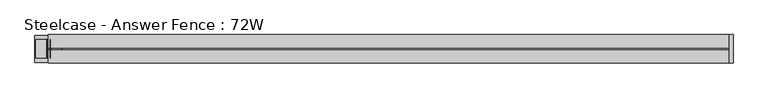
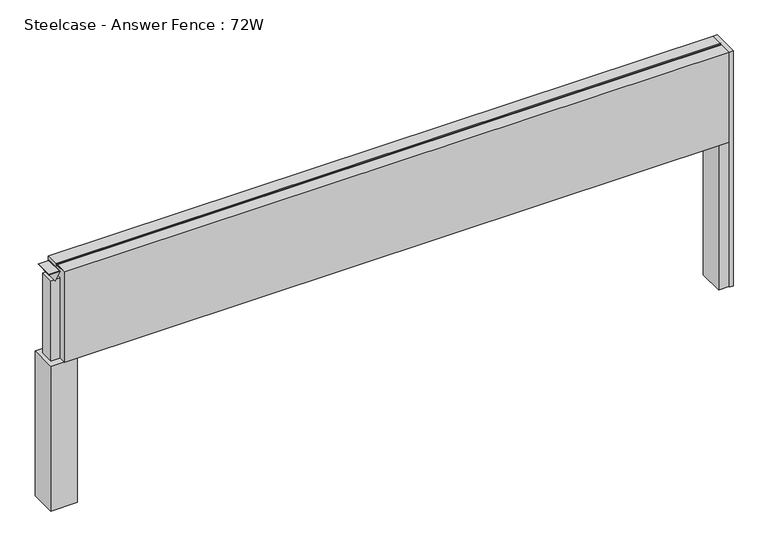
"""IFC4 building model written with IfcOpenShell, lengths in millimetres: furniture geometry, Steelcase - Answer Fence : 72W."""

from ifc_helpers import new_model, si_unit, point, frame, frame_2d, origin, place, context, project, spatial, polyline, circle_curve, trimmed, segment, composite_curve, outline, extrude, source, transform, mapped, element, save
from ifc_brep_helpers import plane_surface, cylinder_surface, revolved_surface, advanced_brep


def steelcase_answer_fence_72w_f308af9f(model_context):
    return source(origin(), model_context, "Body", "SolidModel", [
        extrude(outline(polyline([(1760.503178, 28.9756526), (1788.6512543, 28.9756526), (1788.6512543, 17.9388808), (1771.4288215, 17.9388808), (1771.4288215, -32.8611192), (1788.6381573, -32.8611192), (1788.6381573, -43.7191471), (1760.503178, -43.7191471), (1760.503178, 28.9756526)])), frame((0.0, 0.0, 15.4939671), z_axis=(0.0, 0.0, 1.0), x_axis=(1.0, 0.0, 0.0)), (0.0, 0.0, 1.0), 420.9763759),
        extrude(outline(polyline([(1798.8344464, 30.7299), (1798.8344464, -45.5635028), (1788.668, -45.5635028), (1788.668, 30.7299), (1798.8344464, 30.7299)])), frame((0.0, 0.0, 15.4939671), z_axis=(0.0, 0.0, 1.0), x_axis=(1.0, 0.0, 0.0)), (0.0, 0.0, 1.0), 683.006),
        advanced_brep(
        [(-47.4460299, -7.4168014, -3.29e-05), (-21.9950726, -7.4168014, -3.29e-05), (-34.7205512, -7.4168014, -3.29e-05), (-47.4460299, -7.4168014, 2.446593), (-21.9950726, -7.4168014, 2.446593), (-39.6754775, -7.4168014, 4.8561413), (-29.765625, -7.4168014, 4.8561413), (-38.5932872, -7.4168014, 4.8561413), (-30.8478153, -7.4168014, 4.8561413), (-38.5932872, -7.4168014, 15.4939671), (-30.8478153, -7.4168014, 15.4939671), (-34.7205512, -7.4168014, 15.4939671)],
        [
            (0, 1, circle_curve(frame((-34.7205512, -7.4168014, -3.29e-05), z_axis=(0.0, 0.0, -1.0), x_axis=(1.0000000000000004, 0.0, 0.0)), 12.7254787)),
            (1, 2),
            (2, 0),
            (1, 0, circle_curve(frame((-34.7205512, -7.4168014, -3.29e-05), z_axis=(0.0, 0.0, -1.0), x_axis=(1.0000000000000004, 0.0, 0.0)), 12.7254787)),
            (3, 4, circle_curve(frame((-34.7205512, -7.4168014, 2.446593), z_axis=(0.0, 0.0, -1.0), x_axis=(1.0000000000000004, 0.0, 0.0)), 12.7254787)),
            (4, 1),
            (0, 3),
            (4, 3, circle_curve(frame((-34.7205512, -7.4168014, 2.446593), z_axis=(0.0, 0.0, -1.0), x_axis=(1.0000000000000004, 0.0, 0.0)), 12.7254787)),
            (5, 6, circle_curve(frame((-34.7205512, -7.4168014, 4.8561413), z_axis=(0.0, 0.0, -1.0), x_axis=(1.0000000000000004, 0.0, 0.0)), 4.9549262)),
            (6, 4),
            (3, 5),
            (6, 5, circle_curve(frame((-34.7205512, -7.4168014, 4.8561413), z_axis=(0.0, 0.0, -1.0), x_axis=(1.0000000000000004, 0.0, 0.0)), 4.9549262)),
            (7, 8, circle_curve(frame((-34.7205512, -7.4168014, 4.8561413), z_axis=(0.0, 0.0, -1.0), x_axis=(1.0000000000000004, 0.0, 0.0)), 3.8727359)),
            (8, 6),
            (5, 7),
            (8, 7, circle_curve(frame((-34.7205512, -7.4168014, 4.8561413), z_axis=(0.0, 0.0, -1.0), x_axis=(1.0000000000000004, 0.0, 0.0)), 3.8727359)),
            (9, 10, circle_curve(frame((-34.7205512, -7.4168014, 15.4939671), z_axis=(0.0, 0.0, -1.0), x_axis=(1.0000000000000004, 0.0, 0.0)), 3.8727359)),
            (10, 8),
            (7, 9),
            (10, 9, circle_curve(frame((-34.7205512, -7.4168014, 15.4939671), z_axis=(0.0, 0.0, -1.0), x_axis=(1.0000000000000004, 0.0, 0.0)), 3.8727359)),
            (11, 10),
            (9, 11),
        ],
        [
            plane_surface(frame((-34.7205512, -7.4168014, -3.29e-05), z_axis=(0.0, 0.0, -1.0), x_axis=(1.0, 0.0, 0.0))),
            cylinder_surface(frame((-34.7205512, -7.4168014, -1.135133), z_axis=(0.0, 0.0, 1.0), x_axis=(1.0000000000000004, 0.0, 0.0)), 12.7254787),
            revolved_surface(polyline([(-21.9950726, -7.4168014, 2.446593), (-29.765625, -7.4168014, 4.8561413)]), (-34.7205512, -7.4168014, -1.135133), (0.0, 0.0, 1.0)),
            plane_surface(frame((-34.7205512, -7.4168014, 4.8561413), z_axis=(0.0, 0.0, 1.0), x_axis=(1.0, 0.0, 0.0))),
            cylinder_surface(frame((-34.7205512, -7.4168014, -1.135133), z_axis=(0.0, 0.0, 1.0), x_axis=(1.0000000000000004, 0.0, 0.0)), 3.8727359),
            plane_surface(frame((-34.7205512, -7.4168014, 15.4939671), z_axis=(0.0, 0.0, 1.0), x_axis=(1.0, 0.0, 0.0))),
        ],
        [
            (0, [[1, 2, 3]]),
            (0, [[4, -3, -2]]),
            (1, [[5, 6, -1, 7]]),
            (1, [[8, -7, -4, -6]]),
            (2, [[9, 10, -5, 11]]),
            (2, [[12, -11, -8, -10]]),
            (3, [[13, 14, -9, 15]]),
            (3, [[16, -15, -12, -14]]),
            (4, [[17, 18, -13, 19]]),
            (4, [[20, -19, -16, -18]]),
            (5, [[21, -17, 22]]),
            (5, [[-22, -20, -21]]),
        ],
    ),
        extrude(outline(polyline([(-74.4473999, -43.8092555), (-74.4473999, 28.8855443), (-1.7526001, 28.8855443), (-1.7526001, -43.8092555), (-74.4473999, -43.8092555)])), frame((0.0, 0.0, 15.4939671), z_axis=(0.0, 0.0, 1.0), x_axis=(1.0, 0.0, 0.0)), (0.0, 0.0, 1.0), 420.9763759),
        extrude(outline(composite_curve([segment(polyline([(694.8271015, -3.0262703), (695.7272589, -3.0262703), (695.7272589, -31.9906063)]), True, "CONTINUOUS"), segment(trimmed(circle_curve(frame_2d((693.8919079, -31.9906063)), 1.8353511), [point((695.7272589, -31.9906063))], [point((693.0018984, -33.5957221))], False, "CARTESIAN"), True, "CONTINUOUS"), segment(polyline([(693.0018984, -33.5957221), (670.3405135, -21.0303685), (670.7684479, -20.2585967), (693.3575585, -32.7799452)]), True, "CONTINUOUS"), segment(trimmed(circle_curve(frame_2d((693.8373834, -31.9143183)), 0.9897181), [point((693.3575585, -32.7799452))], [point((694.8271015, -31.9143183))], True, "CARTESIAN"), True, "CONTINUOUS"), segment(polyline([(694.8271015, -31.9143183), (694.8271015, -3.0262703)]), True, "CONTINUOUS")], self_intersect=False)), frame((0.0, -32.5439723, 0.0), z_axis=(0.0, 1.0, 0.0), x_axis=(0.0, 0.0, 1.0)), (0.0, 0.0, 1.0), 50.8000666),
        extrude(outline(composite_curve([segment(polyline([(694.8271015, -72.7768547), (694.8271015, -43.8888067)]), True, "CONTINUOUS"), segment(trimmed(circle_curve(frame_2d((693.8373834, -43.8888067)), 0.9897181), [point((694.8271015, -43.8888067))], [point((693.3575585, -43.0231798))], True, "CARTESIAN"), True, "CONTINUOUS"), segment(polyline([(693.3575585, -43.0231798), (670.7684479, -55.5445283), (670.3405135, -54.7727565), (693.0018984, -42.2074029)]), True, "CONTINUOUS"), segment(trimmed(circle_curve(frame_2d((693.8919079, -43.8125187)), 1.8353511), [point((693.0018984, -42.2074029))], [point((695.7272589, -43.8125187))], False, "CARTESIAN"), True, "CONTINUOUS"), segment(polyline([(695.7272589, -43.8125187), (695.7272589, -72.7768547), (694.8271015, -72.7768547)]), True, "CONTINUOUS")], self_intersect=False)), frame((0.0, -32.5439723, 0.0), z_axis=(0.0, 1.0, 0.0), x_axis=(0.0, 0.0, 1.0)), (0.0, 0.0, 1.0), 50.8000666),
        extrude(outline(polyline([(-63.4258496, -26.1879861), (-63.4258496, 11.9001053), (-12.6258496, 11.9001053), (-12.6258496, -26.1879861), (-63.4258496, -26.1879861)])), frame((0.0, 0.0, 436.470343), z_axis=(0.0, 0.0, 1.0), x_axis=(1.0, 0.0, 0.0)), (0.0, 0.0, 1.0), 233.7346385),
        extrude(outline(polyline([(30.6507456, 698.5), (30.6507456, 436.470343), (-45.5168014, 436.470343), (-45.5168014, 698.5), (-10.7419756, 698.5), (-10.7419756, 695.721875), (-4.4428302, 695.721875), (-4.4428302, 698.5), (30.6507456, 698.5)])), frame((-38.1, 0.0, 0.0), z_axis=(1.0, 0.0, 0.0), x_axis=(0.0, 1.0, 0.0)), (0.0, 0.0, 1.0), 1826.768),
    ])


if __name__ == "__main__":
    model = new_model("IFC4")
    model_context = context("Model", 3, world=origin())
    ifc_project = project(units=[si_unit("LENGTHUNIT", "METRE", prefix="MILLI")], contexts=[model_context])
    site = spatial("IfcSite", under=ifc_project)
    building = spatial("IfcBuilding", under=site)
    placement = place(None, origin())
    steelcase_answer_fence_72w_shape = steelcase_answer_fence_72w_f308af9f(model_context)
    element("IfcFurniture", 1, ObjectType="Steelcase - Answer Fence : 72W", at=placement, inside=building, context=model_context, shape_type="MappedRepresentation", body=[
        mapped(steelcase_answer_fence_72w_shape, transform((0.0, 0.0, 0.0), x_axis=(1.0, 0.0, 0.0), y_axis=(0.0, 1.0, 0.0), z_axis=(0.0, 0.0, 1.0))),
    ])
    save(model, "model.ifc")
